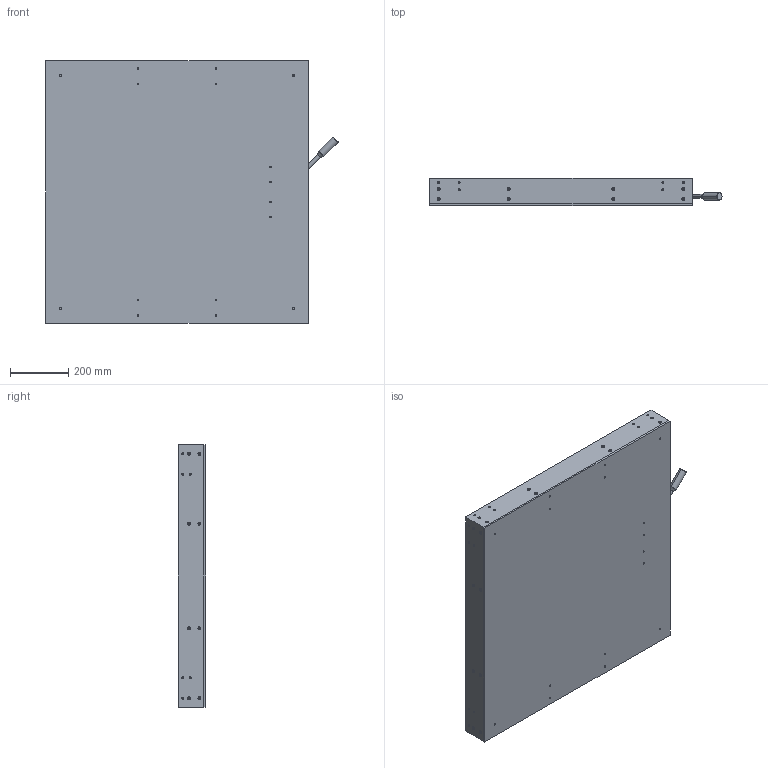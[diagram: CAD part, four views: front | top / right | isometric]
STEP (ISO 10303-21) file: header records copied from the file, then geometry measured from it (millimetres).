
FILE_DESCRIPTION (( 'STEP AP203' ), '1' );
FILE_NAME ('PVHLT-9.STEP', '2016-01-12T02:48:14', ( '' ), ( '' ), 'SwSTEP 2.0', 'SolidWorks 2013', '' );
FILE_SCHEMA (( 'CONFIG_CONTROL_DESIGN' ));
Length unit declared in the file: millimetre
Products named in the file (3): PVHLT-9-Part; cross recessed countersunk head screw_jis_JIS 1111 Cross recessed countersunk head screw - M5 x 8 - Z --8N; PVHLT-9
Assembly tree (33 placements, depth 2):
  PVHLT-9
    PVHLT-9-Part
    cross recessed countersunk head screw_jis_JIS 1111 Cross recessed countersunk head screw - M5 x 8 - Z --8N  x32
Bounding box: 1003.05 x 93 x 900 mm (x, y, z)
Volume: 15444349.4 mm3; surface area: 4667819 mm2
Topology: 115 solids, 115 shells, 2037 faces, 4958 edges, 3050 vertices
Faces by surface type: plane 792, cylinder 693, cone 326, sphere 162, torus 64
Entity records: 31043 total; most frequent: DIRECTION 5910, CARTESIAN_POINT 4872, ORIENTED_EDGE 4548, AXIS2_PLACEMENT_3D 2563, EDGE_CURVE 2274, VERTEX_POINT 1493, CIRCLE 1482, EDGE_LOOP 1453
